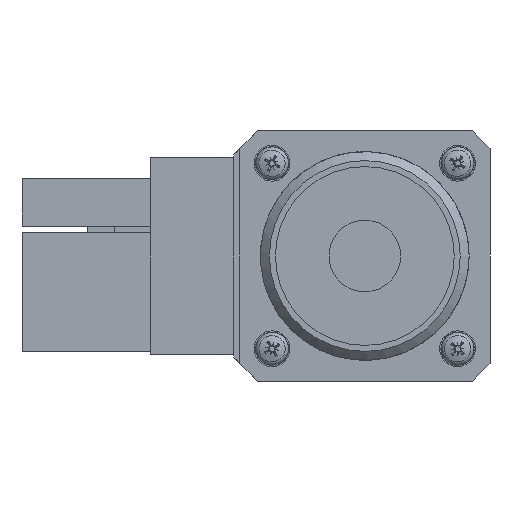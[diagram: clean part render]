
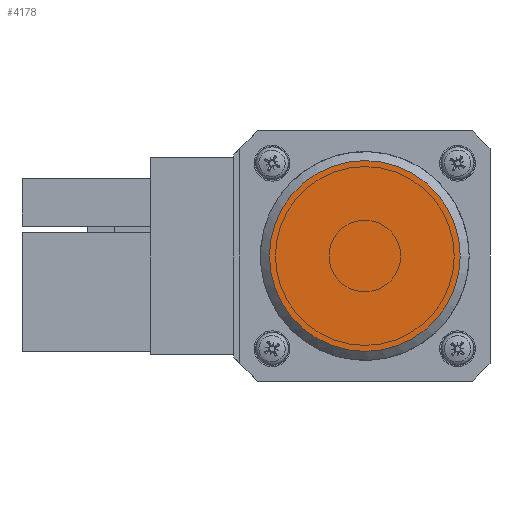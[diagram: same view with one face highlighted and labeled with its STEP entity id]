
A CAD part, front view. The second image highlights one B-rep face of the part: STEP entity #4178.
In plain terms, the highlighted planar face has unit normal (0, -1, 0).
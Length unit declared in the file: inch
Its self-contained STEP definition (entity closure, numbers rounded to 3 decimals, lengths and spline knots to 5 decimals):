
#4100=CARTESIAN_POINT('',(268.98996,64.09041,22.5));
#4101=VERTEX_POINT('',#4100);
#4102=CARTESIAN_POINT('',(252.98996,64.09041,22.5));
#4103=DIRECTION('',(0.0,1.0,0.0));
#4104=DIRECTION('',(-1.0,0.0,0.0));
#4105=AXIS2_PLACEMENT_3D('',#4102,#4103,#4104);
#4106=CIRCLE('',#4105,16.0);
#4107=EDGE_CURVE('',#4101,#4101,#4106,.T.);
#4170=CARTESIAN_POINT('',(252.98996,64.09041,22.5));
#4171=DIRECTION('',(0.0,1.0,0.0));
#4172=DIRECTION('',(-1.0,0.0,0.0));
#4173=AXIS2_PLACEMENT_3D('',#4170,#4171,#4172);
#4174=PLANE('',#4173);
#4175=ORIENTED_EDGE('',*,*,#4107,.F.);
#4176=EDGE_LOOP('',(#4175));
#4177=FACE_OUTER_BOUND('',#4176,.T.);
#4178=ADVANCED_FACE('',(#4177),#4174,.F.);
